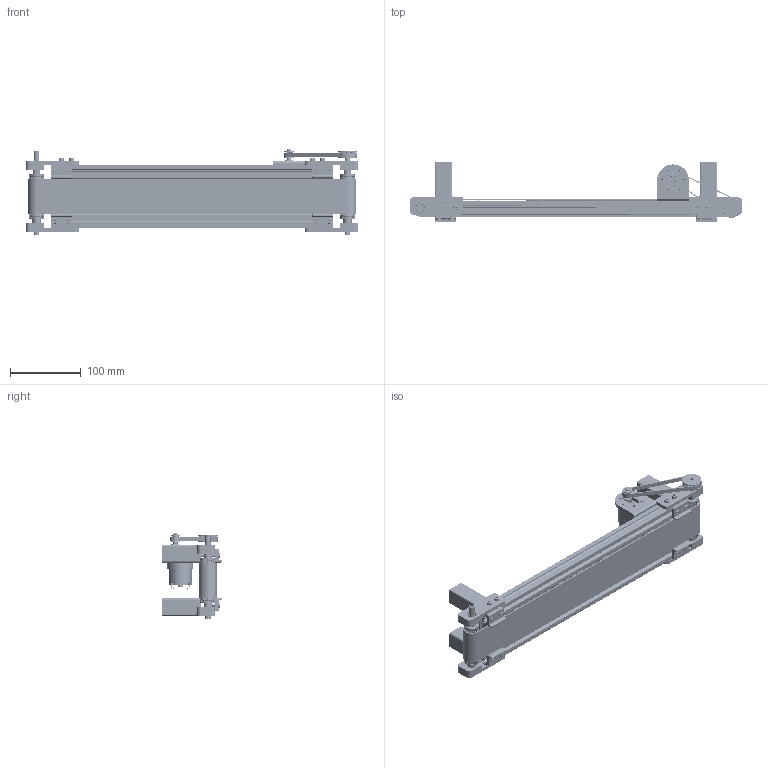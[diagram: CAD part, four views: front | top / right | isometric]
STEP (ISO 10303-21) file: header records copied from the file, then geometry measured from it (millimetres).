
FILE_DESCRIPTION(/* description */ (''),/* implementation_level */ '2;1');
FILE_NAME(/* name */ 'nastro_trasportatore_50mm.stp',/* time_stamp */ '2025-10-02T19:06:16+02:00',/* author */ ('R5800u'),/* organization */ (''),/* preprocessor_version */ 'ST-DEVELOPER v20',/* originating_system */ 'Autodesk Inventor 2025',/* authorisation */ '');
FILE_SCHEMA (('AUTOMOTIVE_DESIGN { 1 0 10303 214 3 1 1 }'));
Products named in the file (32): nastro_trasportatore; tslot-20x20-1; tslot-20x20-1_MIR; tslot-20x20-2; SNSD20x20_MIR; SNSD20x20; MM-JGB37 v4_MIR_MIR; JGB37-520_MIR_MIR; lato; piastra_laterale_cilindro; GT2 16 Teeth Free Pulley; GT2 Timing Pulley T40 small; piastra_laterale_cilindro_MIR1; cinghia; nastro; blocco_nastro; blocco_nastro_MIR; AS 1420 - 1973 - M4 x 20; piastra_laterale_cilindro_MIR2; piastra_laterale_cilindro_MIR1_MIR; Assieme_cilindro; cilindro_01_c; perno_cilindro_b; perno_cilindro_a; blocco_nastro_MIR2; blocco_nastro_MIR_MIR1; AS 1420 - 1973 - M4 x 8; Assieme_cilindro_interno; cilindri_interni; %3% BS 290 - SKF 618/8; perno_laterale_cilindro_interno; perno_laterale_cilindro_interno_MIR
Assembly tree (61 placements, depth 3):
  nastro_trasportatore
    tslot-20x20-1
    tslot-20x20-1_MIR
    tslot-20x20-2  x3
    SNSD20x20  x3
    SNSD20x20_MIR  x3
    MM-JGB37 v4_MIR_MIR
    JGB37-520_MIR_MIR
    lato
    piastra_laterale_cilindro
    GT2 16 Teeth Free Pulley
    GT2 Timing Pulley T40 small
    %3% BS 290 - SKF 618/8  x7
    piastra_laterale_cilindro_MIR1
    cinghia
    nastro
    blocco_nastro
    blocco_nastro_MIR
    AS 1420 - 1973 - M4 x 8  x12
    AS 1420 - 1973 - M4 x 20  x2
    Assieme_cilindro  x2
      cilindro_01_c
      perno_cilindro_b
      perno_cilindro_a
    piastra_laterale_cilindro_MIR2
    piastra_laterale_cilindro_MIR1_MIR
    blocco_nastro_MIR2
    blocco_nastro_MIR_MIR1
    Assieme_cilindro_interno  x4
      cilindri_interni
      %3% BS 290 - SKF 618/8
      perno_laterale_cilindro_interno
      perno_laterale_cilindro_interno_MIR
Bounding box: 470.02 x 85.16 x 120.5 mm (x, y, z)
Volume: 606952.7 mm3; surface area: 449753.9 mm2
Topology: 82 solids, 82 shells, 6767 faces, 18590 edges, 11901 vertices
Faces by surface type: plane 2782, torus 2202, cylinder 1590, sphere 133, cone 56, bspline 4
Full cylindrical faces by diameter (mm): 1.1 x16, 1.6 x3, 2 x19, 2.459 x1, 2.5 x6, 2.6 x3, 3 x1, 3.2 x6, 3.5 x6, 4 x17, 4.2 x8, 4.3 x12, 4.5 x8, 5 x5, 5.3 x3, 6 x4, 7 x14, 7.5 x1, 8 x40, 10.56 x30, 11 x12, 12 x9, 12.5 x1, 13 x4, 13.44 x30, 13.9 x2, 14 x4, 16 x27, 21 x8, 28 x2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
Entity records: 117867 total; most frequent: CARTESIAN_POINT 36372, ORIENTED_EDGE 17536, DIRECTION 15642, EDGE_CURVE 8768, AXIS2_PLACEMENT_3D 6035, VERTEX_POINT 5603, LINE 3572, VECTOR 3572
